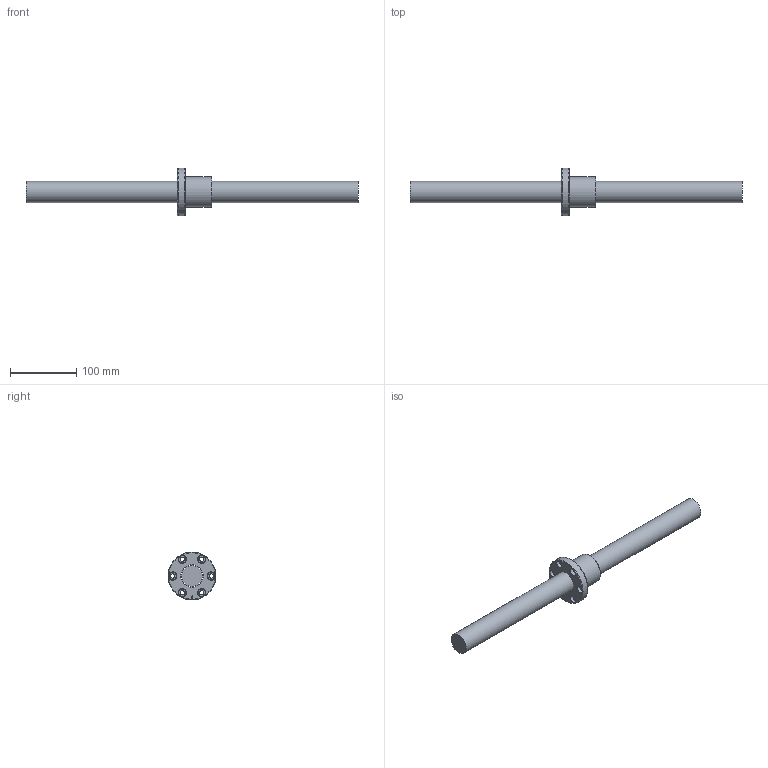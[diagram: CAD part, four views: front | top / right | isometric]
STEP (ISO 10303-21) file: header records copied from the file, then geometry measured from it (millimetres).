
FILE_DESCRIPTION (( 'STEP AP203' ), '1' );
FILE_NAME ('SFNI03205N-4.step', '2024-05-16T01:21:51', ( '' ), ( '' ), 'SwSTEP 2.0', 'SolidWorks 2022', '' );
FILE_SCHEMA (( 'CONFIG_CONTROL_DESIGN' ));
Length unit declared in the file: millimetre
Products named in the file (1): SFNI03205N-4
Bounding box: 500 x 72 x 72 mm (x, y, z)
Volume: 464355.2 mm3; surface area: 73844.6 mm2
Topology: 2 solids, 2 shells, 57 faces, 141 edges, 89 vertices
Faces by surface type: cylinder 24, cone 13, plane 12, bspline 5, torus 3
Full cylindrical faces by diameter (mm): 4 x1, 6.5 x6, 7 x6, 11 x6, 32 x1, 34.1 x1, 46 x1, 72 x1
Entity records: 3850 total; most frequent: CARTESIAN_POINT 2798, DIRECTION 204, ORIENTED_EDGE 150, EDGE_LOOP 102, AXIS2_PLACEMENT_3D 101, EDGE_CURVE 75, FACE_OUTER_BOUND 72, VERTEX_POINT 65
